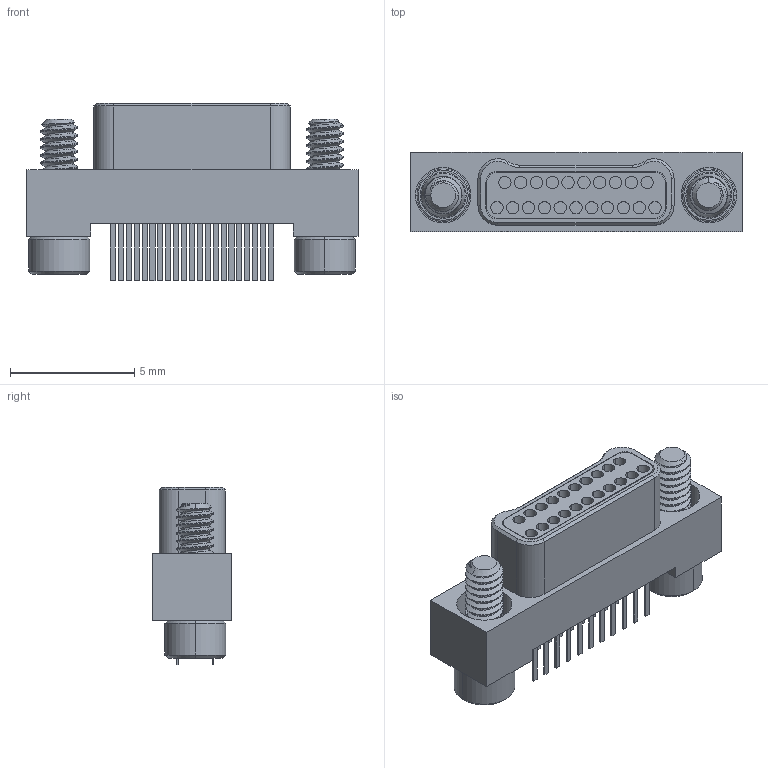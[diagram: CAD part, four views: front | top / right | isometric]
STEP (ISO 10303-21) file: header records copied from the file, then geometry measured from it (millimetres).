
FILE_DESCRIPTION (( 'STEP AP214' ), '1' );
FILE_NAME ('A28500-021 REV H.STEP', '2021-02-26T14:25:39', ( '' ), ( '' ), 'SwSTEP 2.0', 'SolidWorks 2019', '' );
FILE_SCHEMA (( 'AUTOMOTIVE_DESIGN' ));
Length unit declared in the file: inch
Products named in the file (1): A28500-021 REV H
Bounding box: 13.34 x 3.19 x 7.11 mm (x, y, z)
Volume: 141.3 mm3; surface area: 643 mm2
Topology: 1 solids, 1 shells, 585 faces, 1415 edges, 928 vertices
Faces by surface type: plane 321, cylinder 156, bspline 54, cone 38, torus 16
Entity records: 29946 total; most frequent: CARTESIAN_POINT 8863, ORIENTED_EDGE 2830, DIRECTION 2625, EDGE_CURVE 1415, VERTEX_POINT 928, VECTOR 889, LINE 889, AXIS2_PLACEMENT_3D 868
